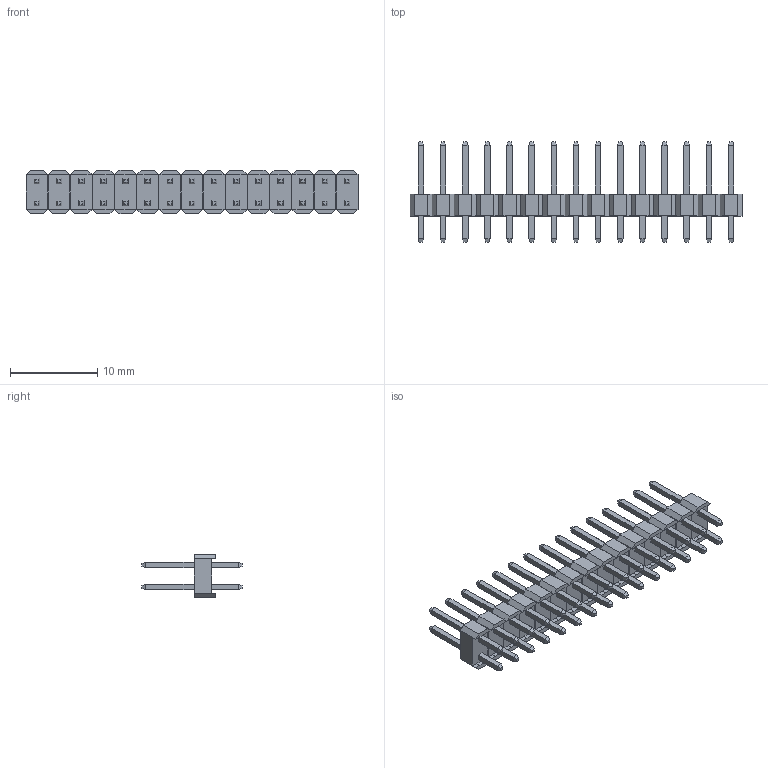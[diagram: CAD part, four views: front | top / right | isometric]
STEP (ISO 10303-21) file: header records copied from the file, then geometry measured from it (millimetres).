
FILE_DESCRIPTION(/* description */ (''),/* implementation_level */ '2;1');
FILE_NAME(/* name */ 'E:\工作文件\排针排母\PZ排针\2.54\双排\Z-直针\塑高2.5\PZ254-2-N-Z-2.5-XX (2.54 双排 直针 排针-HCTL)\PZ254-2-15-Z-2.5-XX (2.54 双排 直针 排针-HCTL).stp',/* time_stamp */ '2023-12-19T17:49:35+08:00',/* author */ ('admin'),/* organization */ (''),/* preprocessor_version */ 'ST-DEVELOPER v18.1',/* originating_system */ 'Autodesk Inventor 2021',/* authorisation */ '');
FILE_SCHEMA (('AUTOMOTIVE_DESIGN { 1 0 10303 214 3 1 1 }'));
Length unit declared in the file: millimetre
Products named in the file (1): PZ254-2-1-Z-2.5-XX (2.54 双排 直针 
排针-HCTL)
Bounding box: 38.06 x 11.5 x 5 mm (x, y, z)
Volume: 492.3 mm3; surface area: 1787.5 mm2
Topology: 29 solids, 29 shells, 894 faces, 2028 edges, 1252 vertices
Faces by surface type: plane 894
Entity records: 24105 total; most frequent: CARTESIAN_POINT 4175, ORIENTED_EDGE 4056, DIRECTION 3818, LINE 2028, VECTOR 2028, EDGE_CURVE 2028, VERTEX_POINT 1252, EDGE_LOOP 954
